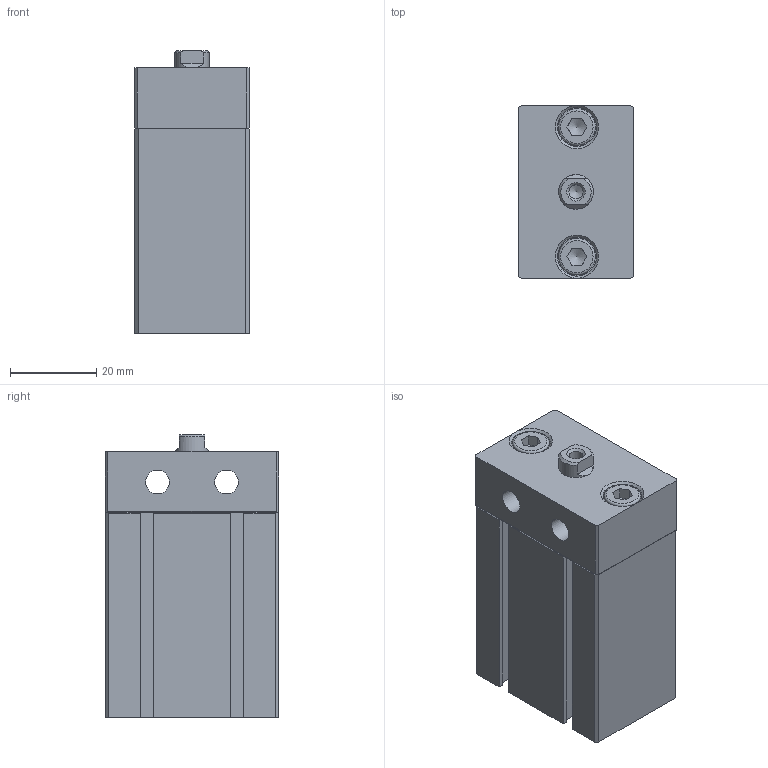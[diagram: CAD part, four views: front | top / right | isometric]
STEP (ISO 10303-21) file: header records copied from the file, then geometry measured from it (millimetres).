
FILE_DESCRIPTION((''),'2;1');
FILE_NAME('I:\3D電子目錄\氣缸\ND\ND\ND20\ND20x20.stp','2007-07-23T20:07:50',('Administrator'),(''),'Autodesk Inventor 11','Autodesk Inventor 11','');
FILE_SCHEMA(('AUTOMOTIVE_DESIGN { 1 0 10303 214 1 1 1 1 }'));
Length unit declared in the file: millimetre
Products named in the file (4): ND20; R 形環 22; ISO 4762 M5 x 10
Assembly tree (4 placements, depth 2):
  ND20
    ND20
    R 形環 22
    ISO 4762 M5 x 10  x2
Bounding box: 26.4 x 40.1 x 65.5 mm (x, y, z)
Volume: 57620.7 mm3; surface area: 16699.9 mm2
Topology: 5 solids, 5 shells, 160 faces, 400 edges, 257 vertices
Faces by surface type: plane 101, cylinder 26, bspline 16, cone 14, torus 3
Full cylindrical faces by diameter (mm): 1.5 x4, 5 x2, 5.5 x2, 8.5 x2, 9 x2, 13 x1, 21 x1
Entity records: 4401 total; most frequent: CARTESIAN_POINT 948, DIRECTION 676, ORIENTED_EDGE 654, EDGE_CURVE 327, VECTOR 234, LINE 234, VERTEX_POINT 231, AXIS2_PLACEMENT_3D 221
